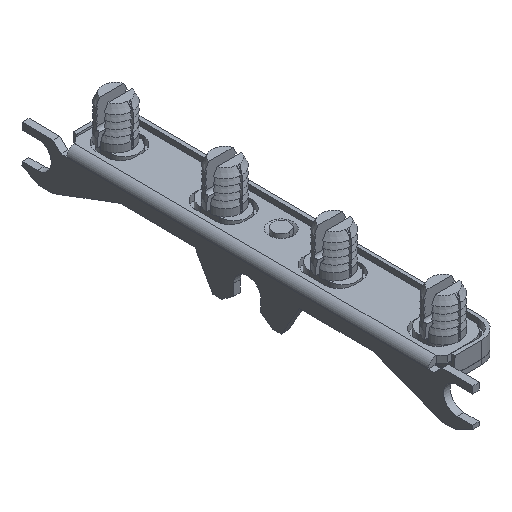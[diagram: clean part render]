
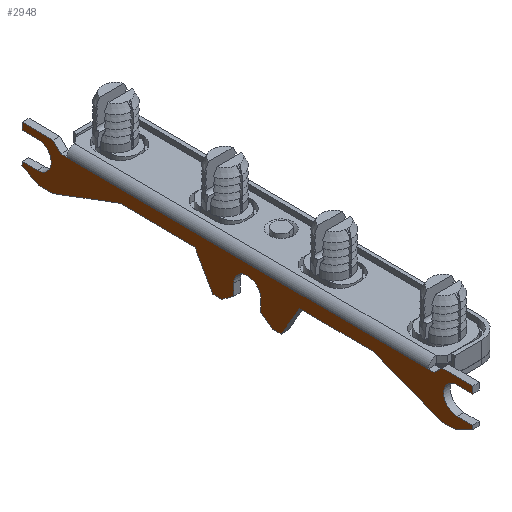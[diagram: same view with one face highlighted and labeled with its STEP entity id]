
A CAD part, isometric view. The second image highlights one B-rep face of the part: STEP entity #2948.
In plain terms, the highlighted planar face has unit normal (-1, 0, 0).
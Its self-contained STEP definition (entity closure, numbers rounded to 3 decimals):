
#551=DIRECTION('',(0.,1.,0.));
#552=VECTOR('',#551,9.);
#553=CARTESIAN_POINT('',(-1.,-170.8,0.));
#554=LINE('',#553,#552);
#558=DIRECTION('',(0.,0.,1.));
#559=VECTOR('',#558,2.);
#560=CARTESIAN_POINT('',(-1.,-170.8,-2.));
#561=LINE('',#560,#559);
#572=DIRECTION('',(0.,-1.,0.));
#573=VECTOR('',#572,4.5);
#574=CARTESIAN_POINT('',(-1.,-166.3,-2.));
#575=LINE('',#574,#573);
#600=DIRECTION('',(0.,1.,0.));
#601=VECTOR('',#600,4.5);
#602=CARTESIAN_POINT('',(-1.,-170.8,-10.));
#603=LINE('',#602,#601);
#607=DIRECTION('',(0.,0.,1.));
#608=VECTOR('',#607,1.1);
#609=CARTESIAN_POINT('',(-1.,-170.8,-11.1));
#610=LINE('',#609,#608);
#628=DIRECTION('',(0.,-1.,0.));
#629=VECTOR('',#628,4.);
#630=CARTESIAN_POINT('',(-1.,-161.8,-13.6));
#631=LINE('',#630,#629);
#649=DIRECTION('',(0.,-1.,0.));
#650=VECTOR('',#649,21.831);
#651=CARTESIAN_POINT('',(-1.,-120.169,-6.));
#652=LINE('',#651,#650);
#670=DIRECTION('',(0.,-1.,0.));
#671=VECTOR('',#670,2.6);
#672=CARTESIAN_POINT('',(-1.,-112.2,-15.3));
#673=LINE('',#672,#671);
#691=DIRECTION('',(0.,0.,-1.));
#692=VECTOR('',#691,3.3);
#693=CARTESIAN_POINT('',(-1.,-108.8,-9.5));
#694=LINE('',#693,#692);
#719=DIRECTION('',(0.,0.,1.));
#720=VECTOR('',#719,3.3);
#721=CARTESIAN_POINT('',(-1.,-100.8,-12.8));
#722=LINE('',#721,#720);
#733=DIRECTION('',(0.,-1.,0.));
#734=VECTOR('',#733,2.6);
#735=CARTESIAN_POINT('',(-1.,-94.8,-15.3));
#736=LINE('',#735,#734);
#754=DIRECTION('',(0.,-1.,0.));
#755=VECTOR('',#754,21.831);
#756=CARTESIAN_POINT('',(-1.,-67.6,-6.));
#757=LINE('',#756,#755);
#775=DIRECTION('',(0.,-1.,0.));
#776=VECTOR('',#775,4.);
#777=CARTESIAN_POINT('',(-1.,-43.8,-13.6));
#778=LINE('',#777,#776);
#796=DIRECTION('',(0.,0.,-1.));
#797=VECTOR('',#796,1.1);
#798=CARTESIAN_POINT('',(-1.,-38.8,-10.));
#799=LINE('',#798,#797);
#810=DIRECTION('',(0.,1.,0.));
#811=VECTOR('',#810,4.5);
#812=CARTESIAN_POINT('',(-1.,-43.3,-10.));
#813=LINE('',#812,#811);
#838=DIRECTION('',(0.,-1.,0.));
#839=VECTOR('',#838,4.5);
#840=CARTESIAN_POINT('',(-1.,-38.8,-2.));
#841=LINE('',#840,#839);
#845=DIRECTION('',(0.,0.,-1.));
#846=VECTOR('',#845,2.);
#847=CARTESIAN_POINT('',(-1.,-38.8,0.));
#848=LINE('',#847,#846);
#859=DIRECTION('',(0.,1.,0.));
#860=VECTOR('',#859,9.);
#861=CARTESIAN_POINT('',(-1.,-47.8,0.));
#862=LINE('',#861,#860);
#873=DIRECTION('',(0.,-0.707,-0.707));
#874=VECTOR('',#873,3.253);
#875=CARTESIAN_POINT('',(-1.,-47.8,0.));
#876=LINE('',#875,#874);
#880=DIRECTION('',(0.,-1.,0.));
#881=VECTOR('',#880,1.7);
#882=CARTESIAN_POINT('',(-1.,-50.1,-2.3));
#883=LINE('',#882,#881);
#887=DIRECTION('',(0.,-1.,0.));
#888=VECTOR('',#887,1.7);
#889=CARTESIAN_POINT('',(-1.,-157.8,-2.3));
#890=LINE('',#889,#888);
#894=DIRECTION('',(0.,-0.707,0.707));
#895=VECTOR('',#894,3.253);
#896=CARTESIAN_POINT('',(-1.,-159.5,-2.3));
#897=LINE('',#896,#895);
#901=CARTESIAN_POINT('',(-1.,-166.3,-6.));
#902=DIRECTION('',(-1.,0.,0.));
#903=DIRECTION('',(0.,0.,1.));
#904=AXIS2_PLACEMENT_3D('',#901,#902,#903);
#909=DIRECTION('',(0.,0.894,-0.447));
#910=VECTOR('',#909,5.59);
#911=CARTESIAN_POINT('',(-1.,-170.8,-11.1));
#912=LINE('',#911,#910);
#916=DIRECTION('',(0.,0.934,0.358));
#917=VECTOR('',#916,21.208);
#918=CARTESIAN_POINT('',(-1.,-161.8,-13.6));
#919=LINE('',#918,#917);
#923=DIRECTION('',(0.,0.5,-0.866));
#924=VECTOR('',#923,10.739);
#925=CARTESIAN_POINT('',(-1.,-120.169,-6.));
#926=LINE('',#925,#924);
#930=DIRECTION('',(0.,0.806,0.592));
#931=VECTOR('',#930,4.22);
#932=CARTESIAN_POINT('',(-1.,-112.2,-15.3));
#933=LINE('',#932,#931);
#937=CARTESIAN_POINT('',(-1.,-104.8,-9.5));
#938=DIRECTION('',(-1.,0.,0.));
#939=DIRECTION('',(0.,-1.,0.));
#940=AXIS2_PLACEMENT_3D('',#937,#938,#939);
#945=DIRECTION('',(0.,0.806,-0.592));
#946=VECTOR('',#945,4.22);
#947=CARTESIAN_POINT('',(-1.,-100.8,-12.8));
#948=LINE('',#947,#946);
#952=DIRECTION('',(0.,0.5,0.866));
#953=VECTOR('',#952,10.739);
#954=CARTESIAN_POINT('',(-1.,-94.8,-15.3));
#955=LINE('',#954,#953);
#959=DIRECTION('',(0.,0.934,-0.358));
#960=VECTOR('',#959,21.208);
#961=CARTESIAN_POINT('',(-1.,-67.6,-6.));
#962=LINE('',#961,#960);
#966=DIRECTION('',(0.,0.894,0.447));
#967=VECTOR('',#966,5.59);
#968=CARTESIAN_POINT('',(-1.,-43.8,-13.6));
#969=LINE('',#968,#967);
#973=CARTESIAN_POINT('',(-1.,-43.3,-6.));
#974=DIRECTION('',(-1.,0.,0.));
#975=DIRECTION('',(0.,0.,-1.));
#976=AXIS2_PLACEMENT_3D('',#973,#974,#975);
#988=DIRECTION('',(0.,1.,0.));
#989=VECTOR('',#988,106.);
#990=CARTESIAN_POINT('',(-1.,-157.8,-2.3));
#991=LINE('',#990,#989);
#2068=CARTESIAN_POINT('',(-1.,-50.1,-2.3));
#2069=VERTEX_POINT('',#2068);
#2070=CARTESIAN_POINT('',(-1.,-47.8,0.));
#2071=VERTEX_POINT('',#2070);
#2072=CARTESIAN_POINT('',(-1.,-51.8,-2.3));
#2073=VERTEX_POINT('',#2072);
#2080=CARTESIAN_POINT('',(-1.,-157.8,-2.3));
#2081=VERTEX_POINT('',#2080);
#2084=CARTESIAN_POINT('',(-1.,-159.5,-2.3));
#2085=VERTEX_POINT('',#2084);
#2086=CARTESIAN_POINT('',(-1.,-161.8,0.));
#2087=VERTEX_POINT('',#2086);
#2088=CARTESIAN_POINT('',(-1.,-170.8,0.));
#2089=VERTEX_POINT('',#2088);
#2090=CARTESIAN_POINT('',(-1.,-170.8,-2.));
#2091=VERTEX_POINT('',#2090);
#2092=CARTESIAN_POINT('',(-1.,-166.3,-2.));
#2093=VERTEX_POINT('',#2092);
#2094=CARTESIAN_POINT('',(-1.,-166.3,-10.));
#2095=VERTEX_POINT('',#2094);
#2096=CARTESIAN_POINT('',(-1.,-170.8,-10.));
#2097=VERTEX_POINT('',#2096);
#2098=CARTESIAN_POINT('',(-1.,-170.8,-11.1));
#2099=VERTEX_POINT('',#2098);
#2100=CARTESIAN_POINT('',(-1.,-165.8,-13.6));
#2101=VERTEX_POINT('',#2100);
#2102=CARTESIAN_POINT('',(-1.,-161.8,-13.6));
#2103=VERTEX_POINT('',#2102);
#2104=CARTESIAN_POINT('',(-1.,-142.,-6.));
#2105=VERTEX_POINT('',#2104);
#2106=CARTESIAN_POINT('',(-1.,-120.169,-6.));
#2107=VERTEX_POINT('',#2106);
#2108=CARTESIAN_POINT('',(-1.,-114.8,-15.3));
#2109=VERTEX_POINT('',#2108);
#2110=CARTESIAN_POINT('',(-1.,-112.2,-15.3));
#2111=VERTEX_POINT('',#2110);
#2112=CARTESIAN_POINT('',(-1.,-108.8,-12.8));
#2113=VERTEX_POINT('',#2112);
#2114=CARTESIAN_POINT('',(-1.,-108.8,-9.5));
#2115=VERTEX_POINT('',#2114);
#2116=CARTESIAN_POINT('',(-1.,-100.8,-9.5));
#2117=VERTEX_POINT('',#2116);
#2118=CARTESIAN_POINT('',(-1.,-100.8,-12.8));
#2119=VERTEX_POINT('',#2118);
#2120=CARTESIAN_POINT('',(-1.,-97.4,-15.3));
#2121=VERTEX_POINT('',#2120);
#2122=CARTESIAN_POINT('',(-1.,-94.8,-15.3));
#2123=VERTEX_POINT('',#2122);
#2124=CARTESIAN_POINT('',(-1.,-89.431,-6.));
#2125=VERTEX_POINT('',#2124);
#2126=CARTESIAN_POINT('',(-1.,-67.6,-6.));
#2127=VERTEX_POINT('',#2126);
#2128=CARTESIAN_POINT('',(-1.,-47.8,-13.6));
#2129=VERTEX_POINT('',#2128);
#2130=CARTESIAN_POINT('',(-1.,-43.8,-13.6));
#2131=VERTEX_POINT('',#2130);
#2132=CARTESIAN_POINT('',(-1.,-38.8,-11.1));
#2133=VERTEX_POINT('',#2132);
#2134=CARTESIAN_POINT('',(-1.,-38.8,-10.));
#2135=VERTEX_POINT('',#2134);
#2136=CARTESIAN_POINT('',(-1.,-43.3,-10.));
#2137=VERTEX_POINT('',#2136);
#2138=CARTESIAN_POINT('',(-1.,-43.3,-2.));
#2139=VERTEX_POINT('',#2138);
#2140=CARTESIAN_POINT('',(-1.,-38.8,-2.));
#2141=VERTEX_POINT('',#2140);
#2142=CARTESIAN_POINT('',(-1.,-38.8,0.));
#2143=VERTEX_POINT('',#2142);
#2906=CARTESIAN_POINT('',(-1.,0.,0.));
#2907=DIRECTION('',(1.,0.,0.));
#2908=DIRECTION('',(0.,0.,-1.));
#2909=AXIS2_PLACEMENT_3D('',#2906,#2907,#2908);
#2910=PLANE('',#2909);
#2911=ORIENTED_EDGE('',*,*,#2408,.T.);
#2912=ORIENTED_EDGE('',*,*,#2423,.T.);
#2914=ORIENTED_EDGE('',*,*,#2913,.F.);
#2915=ORIENTED_EDGE('',*,*,#2481,.T.);
#2916=ORIENTED_EDGE('',*,*,#2495,.T.);
#2917=ORIENTED_EDGE('',*,*,#2510,.F.);
#2918=ORIENTED_EDGE('',*,*,#2523,.F.);
#2919=ORIENTED_EDGE('',*,*,#2537,.F.);
#2920=ORIENTED_EDGE('',*,*,#2551,.T.);
#2921=ORIENTED_EDGE('',*,*,#2565,.F.);
#2922=ORIENTED_EDGE('',*,*,#2579,.F.);
#2923=ORIENTED_EDGE('',*,*,#2593,.T.);
#2924=ORIENTED_EDGE('',*,*,#2607,.F.);
#2925=ORIENTED_EDGE('',*,*,#2621,.T.);
#2926=ORIENTED_EDGE('',*,*,#2635,.F.);
#2927=ORIENTED_EDGE('',*,*,#2649,.T.);
#2928=ORIENTED_EDGE('',*,*,#2663,.F.);
#2929=ORIENTED_EDGE('',*,*,#2677,.T.);
#2930=ORIENTED_EDGE('',*,*,#2691,.F.);
#2931=ORIENTED_EDGE('',*,*,#2705,.T.);
#2932=ORIENTED_EDGE('',*,*,#2719,.F.);
#2933=ORIENTED_EDGE('',*,*,#2733,.T.);
#2934=ORIENTED_EDGE('',*,*,#2747,.F.);
#2935=ORIENTED_EDGE('',*,*,#2761,.T.);
#2936=ORIENTED_EDGE('',*,*,#2775,.F.);
#2937=ORIENTED_EDGE('',*,*,#2789,.T.);
#2938=ORIENTED_EDGE('',*,*,#2803,.F.);
#2939=ORIENTED_EDGE('',*,*,#2817,.T.);
#2940=ORIENTED_EDGE('',*,*,#2831,.F.);
#2941=ORIENTED_EDGE('',*,*,#2845,.F.);
#2942=ORIENTED_EDGE('',*,*,#2859,.T.);
#2943=ORIENTED_EDGE('',*,*,#2873,.F.);
#2944=ORIENTED_EDGE('',*,*,#2887,.F.);
#2945=ORIENTED_EDGE('',*,*,#2899,.F.);
#2946=EDGE_LOOP('',(#2911,#2912,#2914,#2915,#2916,#2917,#2918,#2919,#2920,#2921,
#2922,#2923,#2924,#2925,#2926,#2927,#2928,#2929,#2930,#2931,#2932,#2933,#2934,
#2935,#2936,#2937,#2938,#2939,#2940,#2941,#2942,#2943,#2944,#2945));
#2947=FACE_OUTER_BOUND('',#2946,.F.);
#905=CIRCLE('',#904,4.);
#941=CIRCLE('',#940,4.);
#977=CIRCLE('',#976,4.);
#2408=EDGE_CURVE('',#2071,#2069,#876,.T.);
#2423=EDGE_CURVE('',#2069,#2073,#883,.T.);
#2481=EDGE_CURVE('',#2081,#2085,#890,.T.);
#2495=EDGE_CURVE('',#2085,#2087,#897,.T.);
#2510=EDGE_CURVE('',#2089,#2087,#554,.T.);
#2523=EDGE_CURVE('',#2091,#2089,#561,.T.);
#2537=EDGE_CURVE('',#2093,#2091,#575,.T.);
#2551=EDGE_CURVE('',#2093,#2095,#905,.T.);
#2565=EDGE_CURVE('',#2097,#2095,#603,.T.);
#2579=EDGE_CURVE('',#2099,#2097,#610,.T.);
#2593=EDGE_CURVE('',#2099,#2101,#912,.T.);
#2607=EDGE_CURVE('',#2103,#2101,#631,.T.);
#2621=EDGE_CURVE('',#2103,#2105,#919,.T.);
#2635=EDGE_CURVE('',#2107,#2105,#652,.T.);
#2649=EDGE_CURVE('',#2107,#2109,#926,.T.);
#2663=EDGE_CURVE('',#2111,#2109,#673,.T.);
#2677=EDGE_CURVE('',#2111,#2113,#933,.T.);
#2691=EDGE_CURVE('',#2115,#2113,#694,.T.);
#2705=EDGE_CURVE('',#2115,#2117,#941,.T.);
#2719=EDGE_CURVE('',#2119,#2117,#722,.T.);
#2733=EDGE_CURVE('',#2119,#2121,#948,.T.);
#2747=EDGE_CURVE('',#2123,#2121,#736,.T.);
#2761=EDGE_CURVE('',#2123,#2125,#955,.T.);
#2775=EDGE_CURVE('',#2127,#2125,#757,.T.);
#2789=EDGE_CURVE('',#2127,#2129,#962,.T.);
#2803=EDGE_CURVE('',#2131,#2129,#778,.T.);
#2817=EDGE_CURVE('',#2131,#2133,#969,.T.);
#2831=EDGE_CURVE('',#2135,#2133,#799,.T.);
#2845=EDGE_CURVE('',#2137,#2135,#813,.T.);
#2859=EDGE_CURVE('',#2137,#2139,#977,.T.);
#2873=EDGE_CURVE('',#2141,#2139,#841,.T.);
#2887=EDGE_CURVE('',#2143,#2141,#848,.T.);
#2899=EDGE_CURVE('',#2071,#2143,#862,.T.);
#2913=EDGE_CURVE('',#2081,#2073,#991,.T.);
#2948=ADVANCED_FACE('',(#2947),#2910,.F.);
